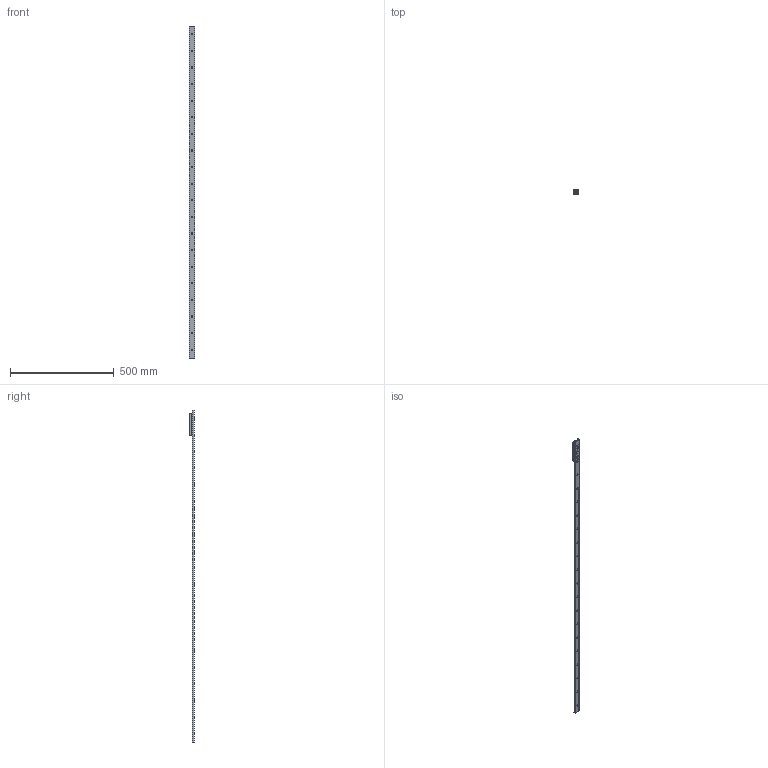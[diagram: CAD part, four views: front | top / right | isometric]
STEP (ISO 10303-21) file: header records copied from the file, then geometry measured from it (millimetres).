
FILE_DESCRIPTION( ( 'STEP AP214' ), '1' );
FILE_NAME( 'p:/temp/worker_24/temp/exporttempdir_5160_93_b6zpk/format_1/TGV-01600_1_RV28G-3.stp', '2020-11-20T16:36:36', ( 'License CC BY-ND 4.0' ), ( 'CADENAS' ), ' ', 'PARTsolutions', ' ' );
FILE_SCHEMA( ( 'AUTOMOTIVE_DESIGN { 1 0 10303 214 1 1 1 1 }' ) );
Length unit declared in the file: millimetre
Products named in the file (6): TGV-01600/1/RV28G-3; _TGV28-1600-(3-1); _RV28G-3-slider; _RGNV28R; _RGAV28R; _WR28G-01
Assembly tree (7 placements, depth 2):
  TGV-01600/1/RV28G-3
    _TGV28-1600-(3-1)
    _RV28G-3-slider
    _RGNV28R  x2
    _RGAV28R
    _WR28G-01  x2
Bounding box: 28 x 24 x 1600 mm (x, y, z)
Volume: 267501.2 mm3; surface area: 170708.3 mm2
Topology: 7 solids, 7 shells, 1052 faces, 2745 edges, 1789 vertices
Faces by surface type: plane 657, cylinder 300, cone 60, bspline 26, torus 9
Full cylindrical faces by diameter (mm): 1.27 x4, 2 x2, 2.5 x6, 4 x4, 4.134 x4, 4.2 x3, 5 x3, 5.5 x3, 5.75 x20, 7 x5, 7.5 x1, 8 x6, 10.8 x3, 17 x3, 20.75 x6
Entity records: 25451 total; most frequent: CARTESIAN_POINT 4035, DIRECTION 3400, ORIENTED_EDGE 3114, EDGE_CURVE 1557, AXIS2_PLACEMENT_3D 1305, VERTEX_POINT 1089, EDGE_LOOP 911, LINE 790
